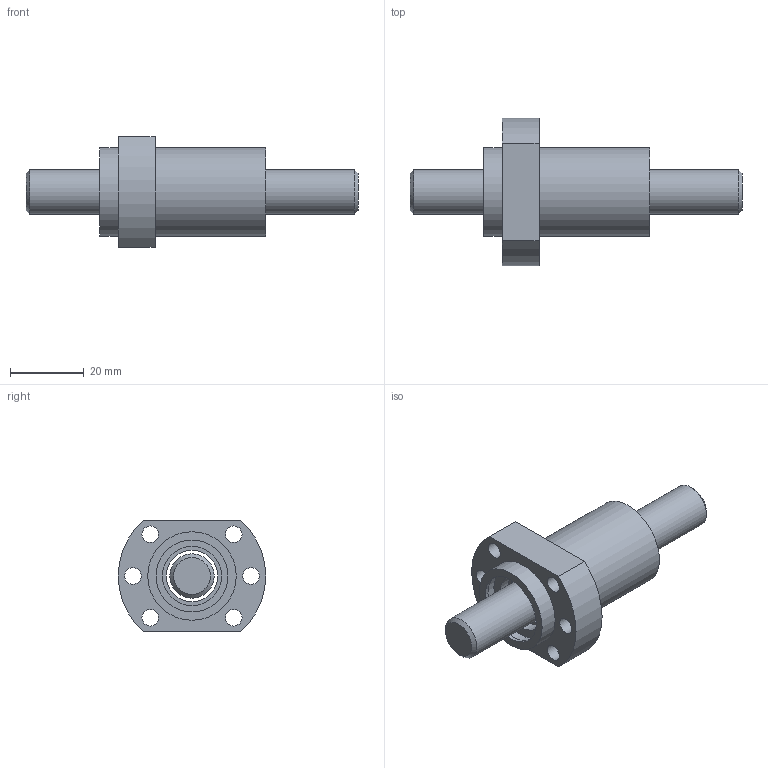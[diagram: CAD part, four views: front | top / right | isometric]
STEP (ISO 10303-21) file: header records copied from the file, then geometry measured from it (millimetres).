
FILE_DESCRIPTION(/* description */ (''),/* implementation_level */ '2;1');
FILE_NAME(/* name */ 'model1.stp',/* time_stamp */ '2016-07-18T16:43:33+08:00',/* author */ (''),/* organization */ (''),/* preprocessor_version */ 'ST-DEVELOPER v11',/* originating_system */ 'SIEMENS UGS NX 6.0',/* authorisation */ '');
FILE_SCHEMA (('CONFIG_CONTROL_DESIGN'));
Length unit declared in the file: millimetre
Products named in the file (1): fannCD57hkoi
Bounding box: 90 x 40 x 30 mm (x, y, z)
Volume: 24951.1 mm3; surface area: 12552.4 mm2
Topology: 2 solids, 2 shells, 34 faces, 66 edges, 44 vertices
Faces by surface type: cylinder 18, plane 14, cone 2
Full cylindrical faces by diameter (mm): 4.5 x6, 12 x1, 14 x1, 16 x2, 19.5 x2, 21 x2, 24 x2
Entity records: 892 total; most frequent: DIRECTION 154, CARTESIAN_POINT 123, ORIENTED_EDGE 92, EDGE_LOOP 74, AXIS2_PLACEMENT_3D 73, FACE_BOUND 68, EDGE_CURVE 46, VERTEX_POINT 42
